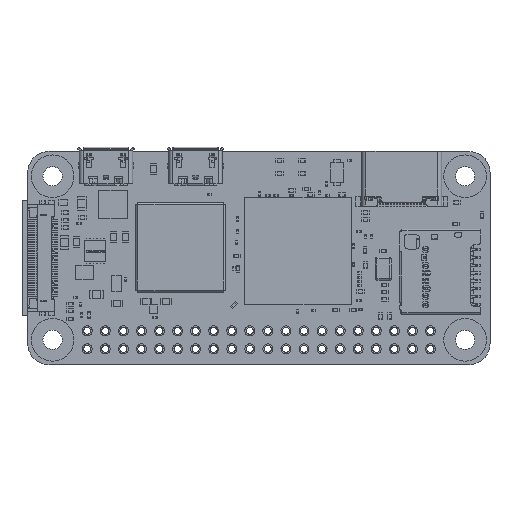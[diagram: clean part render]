
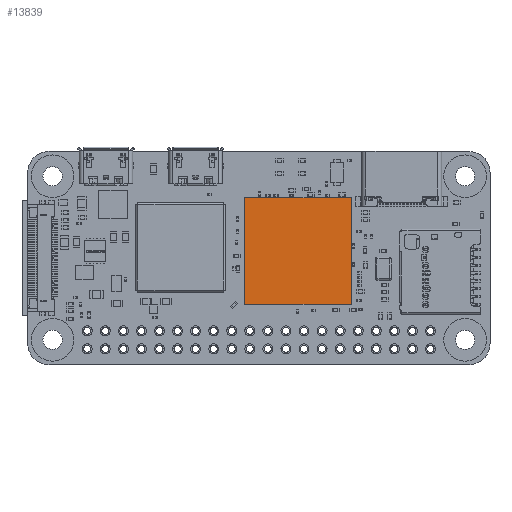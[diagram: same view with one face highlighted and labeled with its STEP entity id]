
A CAD part, top view. The second image highlights one B-rep face of the part: STEP entity #13839.
In plain terms, the highlighted planar face has unit normal (0, 0, 1).
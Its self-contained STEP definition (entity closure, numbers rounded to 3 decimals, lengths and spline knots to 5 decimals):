
#13839=ADVANCED_FACE('',(#20959),#125546,.T.);
#20959=FACE_OUTER_BOUND('',#28331,.T.);
#28331=EDGE_LOOP('',(#51900,#51901,#51902,#51903));
#51900=ORIENTED_EDGE('',*,*,#78279,.T.);
#51901=ORIENTED_EDGE('',*,*,#78283,.T.);
#51902=ORIENTED_EDGE('',*,*,#78286,.T.);
#51903=ORIENTED_EDGE('',*,*,#78288,.T.);
#78279=EDGE_CURVE('',#115690,#115689,#103564,.T.);
#78283=EDGE_CURVE('',#115689,#115692,#103568,.T.);
#78286=EDGE_CURVE('',#115692,#115694,#103571,.T.);
#78288=EDGE_CURVE('',#115694,#115690,#103573,.T.);
#103564=B_SPLINE_CURVE_WITH_KNOTS('',1,(#186170,#186171),.UNSPECIFIED.,
 .F.,.F.,(2,2),(-15.,0.),.UNSPECIFIED.);
#103568=B_SPLINE_CURVE_WITH_KNOTS('',1,(#186178,#186179),.UNSPECIFIED.,
 .F.,.F.,(2,2),(-15.,0.),.UNSPECIFIED.);
#103571=B_SPLINE_CURVE_WITH_KNOTS('',1,(#186184,#186185),.UNSPECIFIED.,
 .F.,.F.,(2,2),(-15.,0.),.UNSPECIFIED.);
#103573=B_SPLINE_CURVE_WITH_KNOTS('',1,(#186188,#186189),.UNSPECIFIED.,
 .F.,.F.,(2,2),(-15.,0.),.UNSPECIFIED.);
#115689=VERTEX_POINT('',#186160);
#115690=VERTEX_POINT('',#186161);
#115692=VERTEX_POINT('',#186163);
#115694=VERTEX_POINT('',#186165);
#125546=PLANE('',#132723);
#132723=AXIS2_PLACEMENT_3D('',#186156,#145284,$);
#145284=DIRECTION('',(0.,0.,1.));
#186156=CARTESIAN_POINT('',(6.95591,-40.42449,1.54039));
#186160=CARTESIAN_POINT('',(6.3063,-40.36543,1.54039));
#186161=CARTESIAN_POINT('',(6.3063,-39.77488,1.54039));
#186163=CARTESIAN_POINT('',(6.89685,-40.36543,1.54039));
#186165=CARTESIAN_POINT('',(6.89685,-39.77488,1.54039));
#186170=CARTESIAN_POINT('',(6.3063,-39.77488,1.54039));
#186171=CARTESIAN_POINT('',(6.3063,-40.36543,1.54039));
#186178=CARTESIAN_POINT('',(6.3063,-40.36543,1.54039));
#186179=CARTESIAN_POINT('',(6.89685,-40.36543,1.54039));
#186184=CARTESIAN_POINT('',(6.89685,-40.36543,1.54039));
#186185=CARTESIAN_POINT('',(6.89685,-39.77488,1.54039));
#186188=CARTESIAN_POINT('',(6.89685,-39.77488,1.54039));
#186189=CARTESIAN_POINT('',(6.3063,-39.77488,1.54039));
